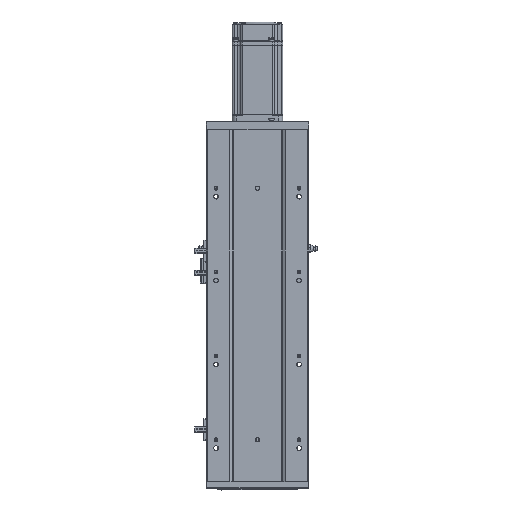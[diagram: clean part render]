
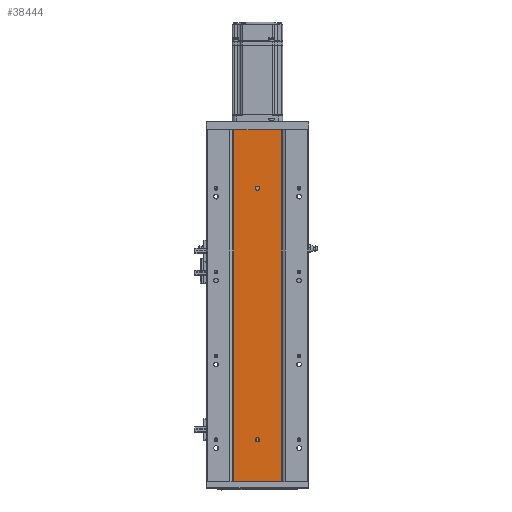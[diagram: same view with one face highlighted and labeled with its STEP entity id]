
A CAD part, front view. The second image highlights one B-rep face of the part: STEP entity #38444.
In plain terms, the highlighted planar face has unit normal (0, -1, 0).
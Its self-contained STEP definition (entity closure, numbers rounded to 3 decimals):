
#714 = ORIENTED_EDGE ( 'NONE', *, *, #76436, .F. ) ;
#722 = CARTESIAN_POINT ( 'NONE',  ( 134.998, 50.307, 47.5 ) ) ;
#2176 = DIRECTION ( 'NONE',  ( 0., 0., -1. ) ) ;
#2264 = DIRECTION ( 'NONE',  ( 0., -1., 0. ) ) ;
#4546 = DIRECTION ( 'NONE',  ( 0., 0., -1. ) ) ;
#7234 = CARTESIAN_POINT ( 'NONE',  ( 105.998, 50.307, 420. ) ) ;
#7454 = LINE ( 'NONE', #60615, #36982 ) ;
#7920 = EDGE_CURVE ( 'NONE', #35689, #53300, #7454, .T. ) ;
#8315 = CARTESIAN_POINT ( 'NONE',  ( 163.998, 50.307, 420. ) ) ;
#8418 = CARTESIAN_POINT ( 'NONE',  ( 134.998, 50.307, 50. ) ) ;
#9606 = VECTOR ( 'NONE', #63578, 1000. ) ;
#13728 = PLANE ( 'NONE',  #14737 ) ;
#13886 = DIRECTION ( 'NONE',  ( 0., 0., -1. ) ) ;
#14737 = AXIS2_PLACEMENT_3D ( 'NONE', #73810, #37220, #61836 ) ;
#16717 = LINE ( 'NONE', #73252, #28191 ) ;
#17343 = VERTEX_POINT ( 'NONE', #57328 ) ;
#18331 = CIRCLE ( 'NONE', #76356, 2.5 ) ;
#18740 = CARTESIAN_POINT ( 'NONE',  ( 134.998, 50.307, 350. ) ) ;
#20061 = ORIENTED_EDGE ( 'NONE', *, *, #72216, .T. ) ;
#21552 = ORIENTED_EDGE ( 'NONE', *, *, #36481, .F. ) ;
#21640 = CARTESIAN_POINT ( 'NONE',  ( 105.998, 50.307, 420. ) ) ;
#22649 = EDGE_LOOP ( 'NONE', ( #61257, #62902 ) ) ;
#22839 = CARTESIAN_POINT ( 'NONE',  ( 134.998, 50.307, 352.5 ) ) ;
#23202 = VERTEX_POINT ( 'NONE', #38922 ) ;
#25196 = EDGE_CURVE ( 'NONE', #42395, #78024, #64179, .T. ) ;
#28191 = VECTOR ( 'NONE', #28883, 1000. ) ;
#28221 = FACE_BOUND ( 'NONE', #22649, .T. ) ;
#28883 = DIRECTION ( 'NONE',  ( 1., 0., 0. ) ) ;
#29989 = DIRECTION ( 'NONE',  ( 0., -1., 0. ) ) ;
#31286 = EDGE_CURVE ( 'NONE', #23202, #17343, #16717, .T. ) ;
#32840 = AXIS2_PLACEMENT_3D ( 'NONE', #8418, #65191, #2176 ) ;
#35689 = VERTEX_POINT ( 'NONE', #7234 ) ;
#36481 = EDGE_CURVE ( 'NONE', #73228, #39562, #76261, .T. ) ;
#36982 = VECTOR ( 'NONE', #72120, 1000. ) ;
#37220 = DIRECTION ( 'NONE',  ( 0., 1., 0. ) ) ;
#38444 = ADVANCED_FACE ( 'NONE', ( #73169, #28221, #55028 ), #13728, .F. ) ;
#38652 = AXIS2_PLACEMENT_3D ( 'NONE', #44926, #2264, #13886 ) ;
#38922 = CARTESIAN_POINT ( 'NONE',  ( 105.998, 50.307, 0. ) ) ;
#39038 = ORIENTED_EDGE ( 'NONE', *, *, #54233, .F. ) ;
#39562 = VERTEX_POINT ( 'NONE', #22839 ) ;
#41078 = DIRECTION ( 'NONE',  ( 0., -1., 0. ) ) ;
#42395 = VERTEX_POINT ( 'NONE', #47614 ) ;
#42650 = EDGE_CURVE ( 'NONE', #78024, #42395, #18331, .T. ) ;
#44749 = LINE ( 'NONE', #21640, #69577 ) ;
#44926 = CARTESIAN_POINT ( 'NONE',  ( 134.998, 50.307, 350. ) ) ;
#47614 = CARTESIAN_POINT ( 'NONE',  ( 134.998, 50.307, 52.5 ) ) ;
#51070 = DIRECTION ( 'NONE',  ( 0., 0., -1. ) ) ;
#53300 = VERTEX_POINT ( 'NONE', #77221 ) ;
#53884 = CARTESIAN_POINT ( 'NONE',  ( 134.998, 50.307, 50. ) ) ;
#54233 = EDGE_CURVE ( 'NONE', #53300, #17343, #60266, .T. ) ;
#55028 = FACE_OUTER_BOUND ( 'NONE', #58150, .T. ) ;
#55418 = ORIENTED_EDGE ( 'NONE', *, *, #7920, .F. ) ;
#57328 = CARTESIAN_POINT ( 'NONE',  ( 163.998, 50.307, 0. ) ) ;
#58150 = EDGE_LOOP ( 'NONE', ( #69048, #39038, #55418, #20061 ) ) ;
#60266 = LINE ( 'NONE', #8315, #9606 ) ;
#60615 = CARTESIAN_POINT ( 'NONE',  ( 0., 50.307, 420. ) ) ;
#61257 = ORIENTED_EDGE ( 'NONE', *, *, #42650, .F. ) ;
#61337 = CIRCLE ( 'NONE', #38652, 2.5 ) ;
#61531 = DIRECTION ( 'NONE',  ( 0., 0., -1. ) ) ;
#61836 = DIRECTION ( 'NONE',  ( -1., 0., 0. ) ) ;
#62902 = ORIENTED_EDGE ( 'NONE', *, *, #25196, .F. ) ;
#63578 = DIRECTION ( 'NONE',  ( 0., 0., -1. ) ) ;
#64037 = CARTESIAN_POINT ( 'NONE',  ( 134.998, 50.307, 347.5 ) ) ;
#64179 = CIRCLE ( 'NONE', #32840, 2.5 ) ;
#65191 = DIRECTION ( 'NONE',  ( 0., -1., 0. ) ) ;
#69048 = ORIENTED_EDGE ( 'NONE', *, *, #31286, .T. ) ;
#69577 = VECTOR ( 'NONE', #51070, 1000. ) ;
#72120 = DIRECTION ( 'NONE',  ( 1., 0., 0. ) ) ;
#72216 = EDGE_CURVE ( 'NONE', #35689, #23202, #44749, .T. ) ;
#73169 = FACE_BOUND ( 'NONE', #75737, .T. ) ;
#73228 = VERTEX_POINT ( 'NONE', #64037 ) ;
#73252 = CARTESIAN_POINT ( 'NONE',  ( 0., 50.307, 0. ) ) ;
#73810 = CARTESIAN_POINT ( 'NONE',  ( 0., 50.307, 420. ) ) ;
#75737 = EDGE_LOOP ( 'NONE', ( #21552, #714 ) ) ;
#76261 = CIRCLE ( 'NONE', #78520, 2.5 ) ;
#76356 = AXIS2_PLACEMENT_3D ( 'NONE', #53884, #41078, #4546 ) ;
#76436 = EDGE_CURVE ( 'NONE', #39562, #73228, #61337, .T. ) ;
#77221 = CARTESIAN_POINT ( 'NONE',  ( 163.998, 50.307, 420. ) ) ;
#78024 = VERTEX_POINT ( 'NONE', #722 ) ;
#78520 = AXIS2_PLACEMENT_3D ( 'NONE', #18740, #29989, #61531 ) ;
